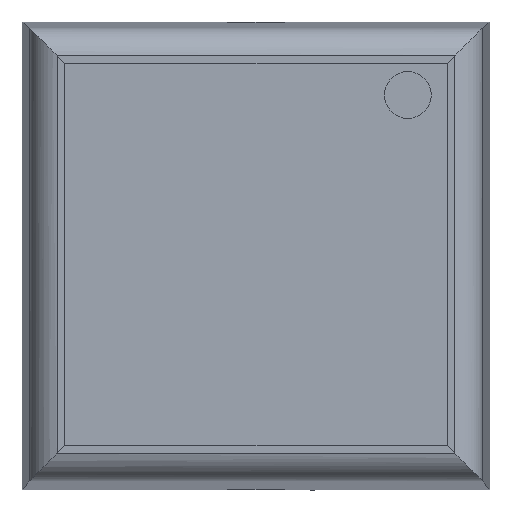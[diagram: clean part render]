
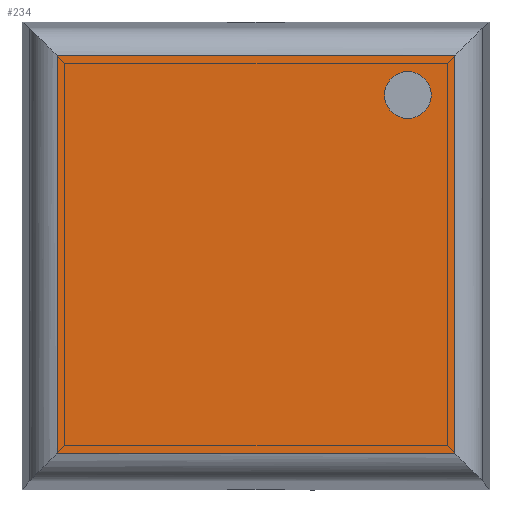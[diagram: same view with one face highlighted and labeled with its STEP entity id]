
A CAD part, top view. The second image highlights one B-rep face of the part: STEP entity #234.
In plain terms, the highlighted planar face has unit normal (0, 0, 1).
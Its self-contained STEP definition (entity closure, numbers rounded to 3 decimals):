
#84=CARTESIAN_POINT('',(11.0,13.65,68.339));
#85=VERTEX_POINT('',#84);
#86=CARTESIAN_POINT('',(13.0,13.65,68.339));
#87=DIRECTION('',(0.0,0.,-1.0));
#88=DIRECTION('',(-1.0,0.0,0.0));
#89=AXIS2_PLACEMENT_3D('',#86,#87,#88);
#90=CIRCLE('',#89,2.0);
#91=EDGE_CURVE('',#85,#85,#90,.T.);
#101=CARTESIAN_POINT('',(-17.0,-17.,68.339));
#102=VERTEX_POINT('',#101);
#103=CARTESIAN_POINT('',(-17.0,17.,68.339));
#104=VERTEX_POINT('',#103);
#105=CARTESIAN_POINT('',(-17.0,-17.,68.339));
#106=DIRECTION('',(0.0,1.0,0.));
#107=VECTOR('',#106,34.);
#108=LINE('',#105,#107);
#109=EDGE_CURVE('',#102,#104,#108,.T.);
#141=CARTESIAN_POINT('',(17.0,17.,68.339));
#142=VERTEX_POINT('',#141);
#143=CARTESIAN_POINT('',(-17.0,17.,68.339));
#144=DIRECTION('',(1.0,0.0,0.0));
#145=VECTOR('',#144,34.0);
#146=LINE('',#143,#145);
#147=EDGE_CURVE('',#104,#142,#146,.T.);
#172=CARTESIAN_POINT('',(17.0,-17.,68.339));
#173=VERTEX_POINT('',#172);
#174=CARTESIAN_POINT('',(17.0,17.,68.339));
#175=DIRECTION('',(0.,-1.0,0.));
#176=VECTOR('',#175,34.);
#177=LINE('',#174,#176);
#178=EDGE_CURVE('',#142,#173,#177,.T.);
#203=CARTESIAN_POINT('',(17.0,-17.,68.339));
#204=DIRECTION('',(-1.0,0.0,0.0));
#205=VECTOR('',#204,34.0);
#206=LINE('',#203,#205);
#207=EDGE_CURVE('',#173,#102,#206,.T.);
#220=CARTESIAN_POINT('',(0.,0.,68.339));
#221=DIRECTION('',(0.,0.,1.0));
#222=DIRECTION('',(-1.0,0.0,0.0));
#223=AXIS2_PLACEMENT_3D('',#220,#221,#222);
#224=PLANE('',#223);
#225=ORIENTED_EDGE('',*,*,#109,.F.);
#226=ORIENTED_EDGE('',*,*,#207,.F.);
#227=ORIENTED_EDGE('',*,*,#178,.F.);
#228=ORIENTED_EDGE('',*,*,#147,.F.);
#229=EDGE_LOOP('',(#225,#226,#227,#228));
#230=FACE_OUTER_BOUND('',#229,.T.);
#231=ORIENTED_EDGE('',*,*,#91,.T.);
#232=EDGE_LOOP('',(#231));
#233=FACE_BOUND('',#232,.T.);
#234=ADVANCED_FACE('',(#230,#233),#224,.T.);
